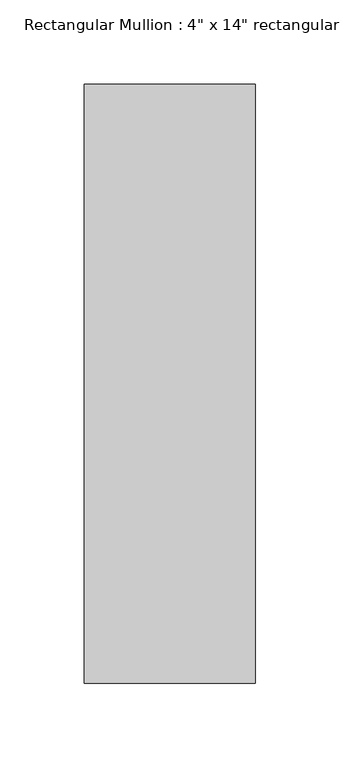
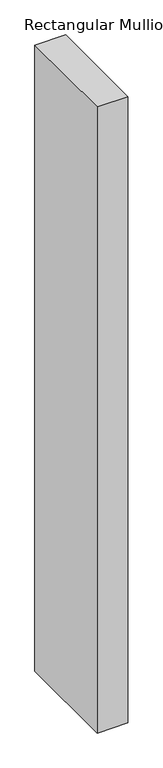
"""IFC4 building model written with IfcOpenShell, lengths in millimetres: member geometry."""

import ifcopenshell
import ifcopenshell.guid

model = None  # the IFC model being written
_history = None  # IfcOwnerHistory: only IFC2X3 demands one
_inside = {}  # id of a spatial element -> (the spatial element, [elements in it])
_under = {}  # id of a project, library or spatial element -> (it, [spatial elements below it])
_declared = {}  # id of a project -> (the project, [libraries it declares])
_typed = {}  # id of a type object -> (the type object, [elements of that type])
_made_of = {}  # id of a material, layer set ... -> (it, [elements and type objects made of it])


def new_model(schema):
    """Start an empty IFC model of exactly this schema.

    Asked for "IFC4X3", IfcOpenShell would pick the latest addendum, in which some entities
    have other attributes; the version numbers below select the first issue.
    IFC2X3 requires an IfcOwnerHistory on every rooted entity: one is made here for all.
    """
    global model, _history
    if schema == "IFC4X3":
        model = ifcopenshell.file(schema_version=(4, 3, 0, 0))
    else:
        model = ifcopenshell.file(schema=schema)
    _inside.clear()
    _under.clear()
    _declared.clear()
    _typed.clear()
    _made_of.clear()
    _history = None
    if model.schema == "IFC2X3":
        org = make("IfcOrganization", Name="unknown")
        user = make(
            "IfcPersonAndOrganization",
            ThePerson=make("IfcPerson", FamilyName="unknown"),
            TheOrganization=org,
        )
        app = make(
            "IfcApplication",
            ApplicationDeveloper=org,
            Version="unknown",
            ApplicationFullName="unknown",
            ApplicationIdentifier="unknown",
        )
        _history = make(
            "IfcOwnerHistory",
            OwningUser=user,
            OwningApplication=app,
            ChangeAction="ADDED",
            CreationDate=0,
        )
    return model


def make(cls, **values):
    """One entity of the class cls with the attributes given. An attribute that is None is left unset."""
    return model.create_entity(
        cls, **{name: value for name, value in values.items() if value is not None}
    )


def rooted(cls, **values):
    """An entity with a GlobalId (a new one), such as an element, a storey or a relation."""
    return make(cls, GlobalId=ifcopenshell.guid.new(), OwnerHistory=_history, **values)


def si_unit(unit_type, name, prefix=None):
    """IfcSIUnit, for example si_unit("LENGTHUNIT", "METRE", prefix="MILLI")."""
    return make("IfcSIUnit", UnitType=unit_type, Prefix=prefix, Name=name)


def assignment(units):
    """IfcUnitAssignment: the units of a project."""
    return None if units is None else make("IfcUnitAssignment", Units=units)


def point(xyz):
    """IfcCartesianPoint."""
    return None if xyz is None else make("IfcCartesianPoint", Coordinates=xyz)


def direction(xyz):
    """IfcDirection."""
    return None if xyz is None else make("IfcDirection", DirectionRatios=xyz)


def frame(location, z_axis=None, x_axis=None):
    """IfcAxis2Placement3D, a coordinate frame: its origin and axes. An axis left out is left unset."""
    return make(
        "IfcAxis2Placement3D",
        Location=point(location),
        Axis=direction(z_axis),
        RefDirection=direction(x_axis),
    )


def origin():
    """The frame at (0, 0, 0) with its axes left unset."""
    return frame((0.0, 0.0, 0.0))


def place(relative_to, where):
    """IfcLocalPlacement: puts the frame where relative to a parent placement (None: the world)."""
    return make(
        "IfcLocalPlacement", PlacementRelTo=relative_to, RelativePlacement=where
    )


def context(
    kind, dimensions, precision=None, world=None, true_north=None, identifier=None
):
    """IfcGeometricRepresentationContext, for example the 3D "Model" context."""
    return make(
        "IfcGeometricRepresentationContext",
        ContextIdentifier=identifier,
        ContextType=kind,
        CoordinateSpaceDimension=dimensions,
        Precision=precision,
        WorldCoordinateSystem=world,
        TrueNorth=true_north,
    )


def project(units=None, contexts=None):
    """IfcProject with its units and contexts."""
    return rooted(
        "IfcProject",
        Name="project",
        RepresentationContexts=contexts,
        UnitsInContext=assignment(units),
    )


def spatial(cls, under=None, at=None, **own):
    """A site, building, storey or space (cls), placed at a placement, below another one or the project."""
    s = rooted(cls, ObjectPlacement=at, **own)
    if under is not None:
        _under.setdefault(under.id(), (under, []))[1].append(s)
    return s


def polyline(points):
    """IfcPolyline through the points."""
    return make("IfcPolyline", Points=[point(p) for p in points])


def outline(outer, holes=None, kind="AREA"):
    """IfcArbitraryClosedProfileDef: a profile drawn as a closed curve; with holes, ...WithVoids."""
    if holes is None:
        return make("IfcArbitraryClosedProfileDef", ProfileType=kind, OuterCurve=outer)
    return make(
        "IfcArbitraryProfileDefWithVoids",
        ProfileType=kind,
        OuterCurve=outer,
        InnerCurves=holes,
    )


def extrude(swept, where, along, depth):
    """IfcExtrudedAreaSolid: the profile swept, set in the frame where, extruded along a direction by depth."""
    return make(
        "IfcExtrudedAreaSolid",
        SweptArea=swept,
        Position=where,
        ExtrudedDirection=direction(along),
        Depth=depth,
    )


def shape(context_of_items, identifier, shape_type, items):
    """IfcShapeRepresentation: the items that make up one representation, for example the "Body"."""
    return make(
        "IfcShapeRepresentation",
        ContextOfItems=context_of_items,
        RepresentationIdentifier=identifier,
        RepresentationType=shape_type,
        Items=items,
    )


def source(mapping_origin, context_of_items, identifier, shape_type, items):
    """IfcRepresentationMap: a shape defined once, which mapped items show again and again."""
    return make(
        "IfcRepresentationMap",
        MappingOrigin=mapping_origin,
        MappedRepresentation=shape(context_of_items, identifier, shape_type, items),
    )


def transform(
    local_origin,
    x_axis=None,
    y_axis=None,
    z_axis=None,
    scale=None,
    scale2=None,
    scale3=None,
    uniform=True,
):
    """IfcCartesianTransformationOperator3D, or its non-uniform kind. x_axis, y_axis, z_axis: its Axis1, 2, 3."""
    if uniform:
        return make(
            "IfcCartesianTransformationOperator3D",
            Axis1=direction(x_axis),
            Axis2=direction(y_axis),
            LocalOrigin=point(local_origin),
            Scale=scale,
            Axis3=direction(z_axis),
        )
    return make(
        "IfcCartesianTransformationOperator3DnonUniform",
        Axis1=direction(x_axis),
        Axis2=direction(y_axis),
        LocalOrigin=point(local_origin),
        Scale=scale,
        Axis3=direction(z_axis),
        Scale2=scale2,
        Scale3=scale3,
    )


def mapped(mapping_source, mapping_target):
    """IfcMappedItem: shows the shape of a source again, moved by a transform."""
    return make(
        "IfcMappedItem", MappingSource=mapping_source, MappingTarget=mapping_target
    )


def made_of(thing, what):
    """Note that an element or type object is made of a material, layer set ...; save() writes the relation."""
    if what is not None:
        _made_of.setdefault(what.id(), (what, []))[1].append(thing)
    return thing


def element(
    cls,
    number,
    at=None,
    inside=None,
    cuts=None,
    type_object=None,
    material=None,
    context=None,
    identifier="Body",
    shape_type=None,
    held_by="IfcProductDefinitionShape",
    body=None,
    shapes=None,
    **own,
):
    """One element of the class cls, such as IfcWall. Its Tag is "e" and its number.

    at: its placement. inside: the storey or other place that contains it. cuts: it is an
    opening in that element (IfcRelVoidsElement). A single representation is given by context,
    identifier, shape_type and body (its items); several are given by shapes. held_by: the class
    of the entity that holds the representations. save() writes the other relations.
    """
    e = rooted(cls, Tag="e%d" % number, ObjectPlacement=at, **own)
    if body is not None:
        shapes = [shape(context, identifier, shape_type, body)]
    if shapes is not None:
        e.Representation = make(held_by, Representations=shapes)
    if inside is not None:
        _inside.setdefault(inside.id(), (inside, []))[1].append(e)
    if cuts is not None:
        rooted(
            "IfcRelVoidsElement", RelatingBuildingElement=cuts, RelatedOpeningElement=e
        )
    if type_object is not None:
        _typed.setdefault(type_object.id(), (type_object, []))[1].append(e)
    return made_of(e, material)


def aggregate(whole, parts):
    """IfcRelAggregates: a whole, such as a stair, and the parts it consists of."""
    return rooted("IfcRelAggregates", RelatingObject=whole, RelatedObjects=parts)


def save(model, path):
    """Write the relations noted so far, then the file.

    IfcRelAggregates (storeys below a building ...), IfcRelContainedInSpatialStructure (elements
    in a storey), IfcRelDefinesByType, IfcRelAssociatesMaterial and IfcRelDeclares: one each for
    every whole, place, type object, material and project.
    """
    for whole, parts in _under.values():
        aggregate(whole, parts)
    for where, things in _inside.values():
        rooted(
            "IfcRelContainedInSpatialStructure",
            RelatedElements=things,
            RelatingStructure=where,
        )
    for kind, things in _typed.values():
        rooted("IfcRelDefinesByType", RelatedObjects=things, RelatingType=kind)
    for what, things in _made_of.values():
        rooted("IfcRelAssociatesMaterial", RelatedObjects=things, RelatingMaterial=what)
    for by, libraries in _declared.values():
        rooted("IfcRelDeclares", RelatingContext=by, RelatedDefinitions=libraries)
    model.write(path)


def member_def95457(model_context):
    return source(origin(), model_context, "Body", "SweptSolid", [
        extrude(outline(polyline([(50.8, 12.7), (50.8, -342.9), (-50.8, -342.9), (-50.8, 12.7), (50.8, 12.7)])), frame((0.0, 0.0, -2188.1903385), z_axis=(0.0, 0.0, 1.0), x_axis=(1.0, 0.0, 0.0)), (0.0, 0.0, 1.0), 2188.1903385),
    ])


if __name__ == "__main__":
    model = new_model("IFC4")
    model_context = context("Model", 3, world=origin())
    ifc_project = project(units=[si_unit("LENGTHUNIT", "METRE", prefix="MILLI")], contexts=[model_context])
    site = spatial("IfcSite", under=ifc_project)
    building = spatial("IfcBuilding", under=site)
    placement = place(None, origin())
    member_shape = member_def95457(model_context)
    element("IfcMember", 1, ObjectType="Rectangular Mullion : 4\" x 14\" rectangular", at=placement, inside=building, context=model_context, shape_type="MappedRepresentation", body=[
        mapped(member_shape, transform((0.0, 0.0, 0.0), x_axis=(1.0, 0.0, 0.0), y_axis=(0.0, 1.0, 0.0), z_axis=(0.0, 0.0, 1.0))),
    ])
    save(model, "model.ifc")
